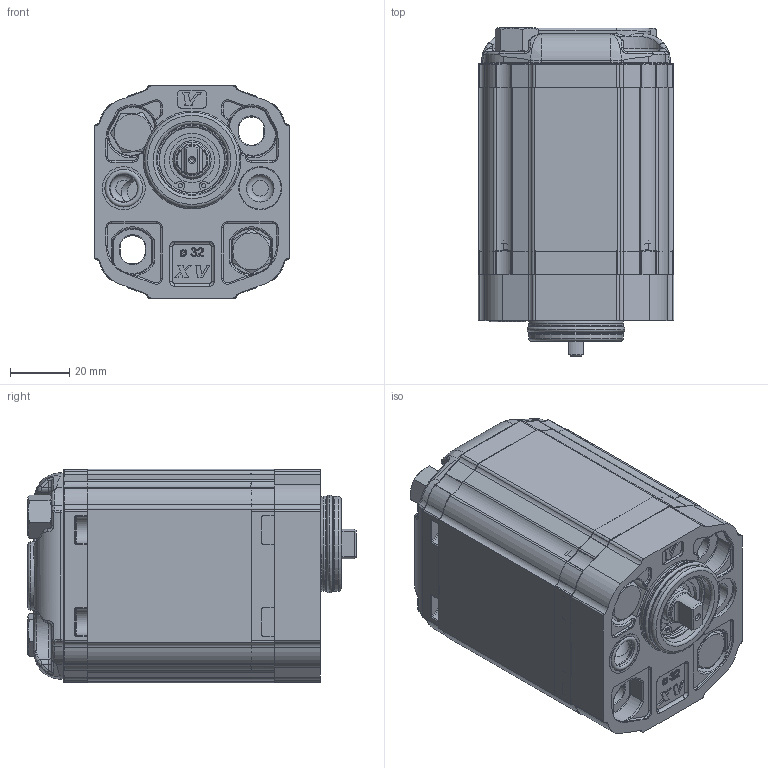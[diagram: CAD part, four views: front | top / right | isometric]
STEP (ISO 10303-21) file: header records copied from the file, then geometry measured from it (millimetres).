
FILE_DESCRIPTION( ( 'Unknown' ), '1' );
FILE_NAME( 'P:/montaggio_easy/output/STP/X1P3243DZZB.stp', 'Unknown', ( 'Unknown' ), ( 'Unknown' ), 'PSStep 14.0', 'Unknown', ' ' );
FILE_SCHEMA( ( 'AUTOMOTIVE_DESIGN { 1 0 10303 214 1 1 1 1 }' ) );
Length unit declared in the file: millimetre
Products named in the file (6): Assem1; X1P43; 1D; X1ZZH63; XP119-B
Bounding box: 66 x 110.5 x 72 mm (x, y, z)
Surface area: 138326.6 mm2
Topology: 10 solids, 12 shells, 2624 faces, 6500 edges, 4036 vertices
Faces by surface type: plane 958, cylinder 822, torus 354, bspline 252, extrusion 126, cone 104, sphere 8
Full cylindrical faces by diameter (mm): 1.447 x4, 1.5 x2, 2.5 x2, 3 x8, 8 x8, 8.5 x6, 9 x6, 9.3 x4, 9.5 x2, 10 x2, 10.5 x4, 11.965 x2, 12 x6, 12.7 x4, 12.923 x2, 14.5 x4, 14.95 x4, 15.115 x2, 15.181 x2, 19 x2, 20 x2, 22 x4, 22.2 x2, 23 x2, 24 x2, 29.4 x4, 32 x4, 32.96 x2
Entity records: 56315 total; most frequent: CARTESIAN_POINT 15812, DIRECTION 6177, ORIENTED_EDGE 6174, EDGE_CURVE 3087, AXIS2_PLACEMENT_3D 2332, VERTEX_POINT 1970, VECTOR 1513, EDGE_LOOP 1512
